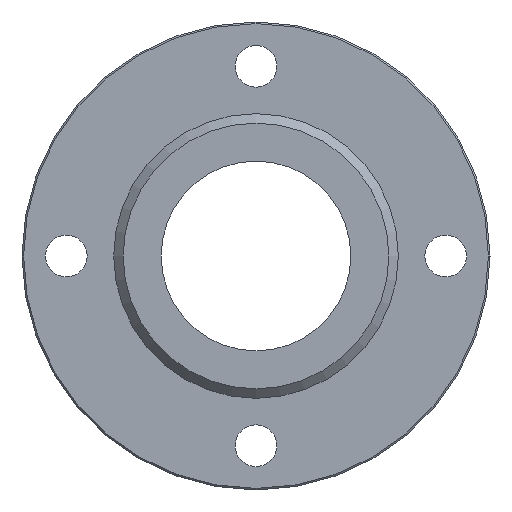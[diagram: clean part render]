
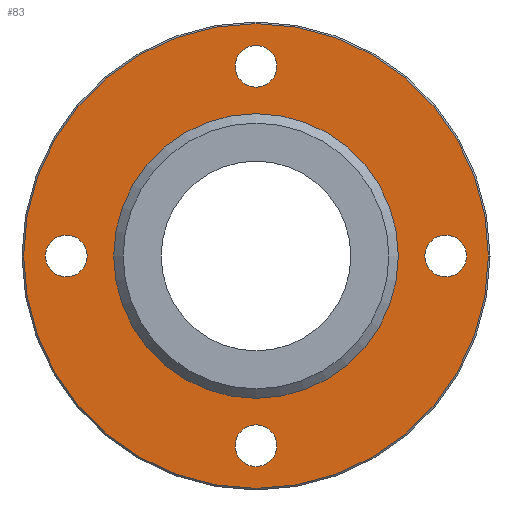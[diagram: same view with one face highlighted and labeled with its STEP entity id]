
A CAD part, left-side view. The second image highlights one B-rep face of the part: STEP entity #83.
In plain terms, the highlighted planar face has unit normal (-1, 0, 0).
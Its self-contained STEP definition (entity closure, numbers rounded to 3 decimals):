
#83=ADVANCED_FACE('',(#125,#126,#127,#128,#129,#130),#131,.F.);
#125=FACE_BOUND('',#196,.T.);
#126=FACE_BOUND('',#197,.T.);
#127=FACE_BOUND('',#198,.T.);
#128=FACE_BOUND('',#199,.T.);
#129=FACE_BOUND('',#200,.T.);
#130=FACE_OUTER_BOUND('',#201,.T.);
#131=PLANE('',#202);
#196=EDGE_LOOP('',(#283));
#197=EDGE_LOOP('',(#284));
#198=EDGE_LOOP('',(#285));
#199=EDGE_LOOP('',(#286));
#200=EDGE_LOOP('',(#287));
#201=EDGE_LOOP('',(#288));
#202=AXIS2_PLACEMENT_3D('',#289,#290,#291);
#283=ORIENTED_EDGE('',*,*,#367,.T.);
#284=ORIENTED_EDGE('',*,*,#368,.T.);
#285=ORIENTED_EDGE('',*,*,#356,.T.);
#286=ORIENTED_EDGE('',*,*,#369,.T.);
#287=ORIENTED_EDGE('',*,*,#370,.T.);
#288=ORIENTED_EDGE('',*,*,#366,.T.);
#289=CARTESIAN_POINT('',(-14.0,36.746,0.0));
#290=DIRECTION('',(1.0,0.0,0.0));
#291=DIRECTION('',(0.0,0.0,-1.0));
#356=EDGE_CURVE('',#385,#385,#386,.T.);
#366=EDGE_CURVE('',#405,#405,#406,.T.);
#367=EDGE_CURVE('',#407,#407,#408,.T.);
#368=EDGE_CURVE('',#409,#409,#410,.T.);
#369=EDGE_CURVE('',#411,#411,#412,.T.);
#370=EDGE_CURVE('',#413,#413,#414,.T.);
#385=VERTEX_POINT('',#435);
#386=CIRCLE('',#436,3.3);
#405=VERTEX_POINT('',#455);
#406=CIRCLE('',#456,36.746);
#407=VERTEX_POINT('',#457);
#408=CIRCLE('',#458,3.3);
#409=VERTEX_POINT('',#459);
#410=CIRCLE('',#460,3.3);
#411=VERTEX_POINT('',#461);
#412=CIRCLE('',#462,3.3);
#413=VERTEX_POINT('',#463);
#414=CIRCLE('',#464,22.5);
#435=CARTESIAN_POINT('',(-14.0,0.0,26.7));
#436=AXIS2_PLACEMENT_3D('',#489,#490,#491);
#455=CARTESIAN_POINT('',(-14.0,0.0,36.746));
#456=AXIS2_PLACEMENT_3D('',#519,#520,#521);
#457=CARTESIAN_POINT('',(-14.0,0.,-33.3));
#458=AXIS2_PLACEMENT_3D('',#522,#523,#524);
#459=CARTESIAN_POINT('',(-14.0,-30.0,-3.3));
#460=AXIS2_PLACEMENT_3D('',#525,#526,#527);
#461=CARTESIAN_POINT('',(-14.0,30.0,-3.3));
#462=AXIS2_PLACEMENT_3D('',#528,#529,#530);
#463=CARTESIAN_POINT('',(-14.0,0.0,-22.5));
#464=AXIS2_PLACEMENT_3D('',#531,#532,#533);
#489=CARTESIAN_POINT('',(-14.0,0.0,30.0));
#490=DIRECTION('',(1.0,0.0,0.0));
#491=DIRECTION('',(0.0,0.0,-1.0));
#519=CARTESIAN_POINT('',(-14.0,0.0,0.0));
#520=DIRECTION('',(-1.0,0.0,0.0));
#521=DIRECTION('',(0.0,0.0,1.0));
#522=CARTESIAN_POINT('',(-14.0,0.,-30.0));
#523=DIRECTION('',(1.0,0.0,0.0));
#524=DIRECTION('',(0.0,0.0,-1.0));
#525=CARTESIAN_POINT('',(-14.0,-30.0,0.));
#526=DIRECTION('',(1.0,0.0,0.0));
#527=DIRECTION('',(0.0,0.0,-1.0));
#528=CARTESIAN_POINT('',(-14.0,30.0,0.0));
#529=DIRECTION('',(1.0,0.0,0.0));
#530=DIRECTION('',(0.0,0.0,-1.0));
#531=CARTESIAN_POINT('',(-14.0,0.0,0.0));
#532=DIRECTION('',(1.0,0.0,0.0));
#533=DIRECTION('',(0.0,0.0,-1.0));
